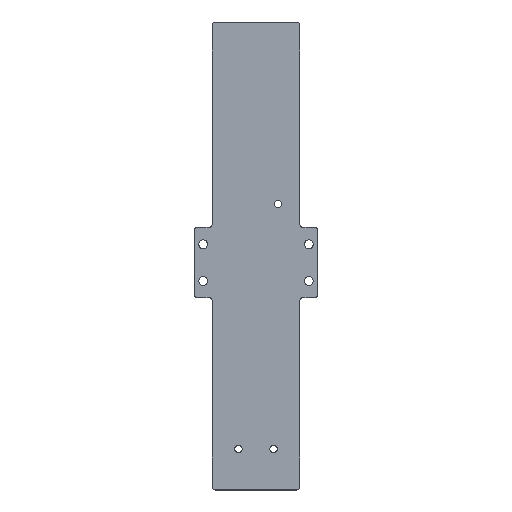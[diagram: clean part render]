
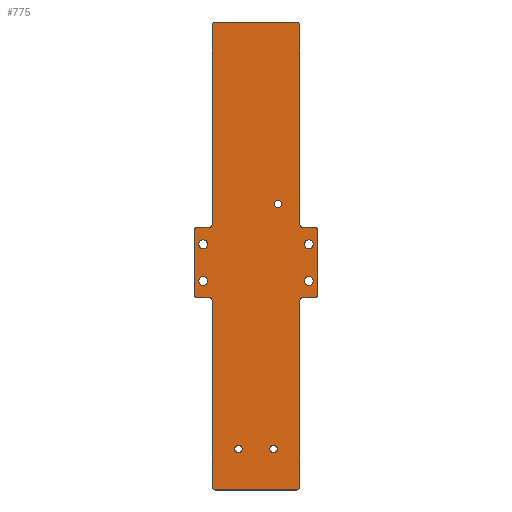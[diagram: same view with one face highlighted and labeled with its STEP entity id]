
A CAD part, top view. The second image highlights one B-rep face of the part: STEP entity #775.
In plain terms, the highlighted planar face has unit normal (0, 0, 1).
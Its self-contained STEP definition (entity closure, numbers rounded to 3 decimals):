
#19=FACE_BOUND('',#94,.T.);
#20=FACE_BOUND('',#95,.T.);
#21=FACE_BOUND('',#96,.T.);
#22=FACE_BOUND('',#97,.T.);
#23=FACE_BOUND('',#98,.T.);
#24=FACE_BOUND('',#99,.T.);
#25=FACE_BOUND('',#100,.T.);
#32=PLANE('',#834);
#50=FACE_OUTER_BOUND('',#93,.T.);
#93=EDGE_LOOP('',(#524,#525,#526,#527,#528,#529,#530,#531,#532,#533,#534,
#535,#536,#537,#538,#539,#540,#541,#542,#543,#544,#545,#546,#547));
#94=EDGE_LOOP('',(#548));
#95=EDGE_LOOP('',(#549));
#96=EDGE_LOOP('',(#550));
#97=EDGE_LOOP('',(#551));
#98=EDGE_LOOP('',(#552));
#99=EDGE_LOOP('',(#553));
#100=EDGE_LOOP('',(#554));
#150=LINE('',#1190,#216);
#151=LINE('',#1194,#217);
#152=LINE('',#1198,#218);
#153=LINE('',#1202,#219);
#154=LINE('',#1206,#220);
#155=LINE('',#1210,#221);
#156=LINE('',#1214,#222);
#157=LINE('',#1218,#223);
#158=LINE('',#1222,#224);
#159=LINE('',#1226,#225);
#160=LINE('',#1230,#226);
#161=LINE('',#1233,#227);
#216=VECTOR('',#936,10.);
#217=VECTOR('',#939,10.);
#218=VECTOR('',#942,10.);
#219=VECTOR('',#945,10.);
#220=VECTOR('',#948,10.);
#221=VECTOR('',#951,10.);
#222=VECTOR('',#954,10.);
#223=VECTOR('',#957,10.);
#224=VECTOR('',#960,10.);
#225=VECTOR('',#963,10.);
#226=VECTOR('',#966,10.);
#227=VECTOR('',#969,10.);
#281=CIRCLE('',#833,1.);
#282=CIRCLE('',#835,1.);
#283=CIRCLE('',#836,1.);
#284=CIRCLE('',#837,1.);
#285=CIRCLE('',#838,1.);
#286=CIRCLE('',#839,1.);
#287=CIRCLE('',#840,1.);
#288=CIRCLE('',#841,1.);
#289=CIRCLE('',#842,1.);
#290=CIRCLE('',#843,1.);
#291=CIRCLE('',#844,1.);
#292=CIRCLE('',#845,1.);
#293=CIRCLE('',#846,1.265);
#294=CIRCLE('',#847,1.5);
#295=CIRCLE('',#848,1.5);
#296=CIRCLE('',#849,1.265);
#297=CIRCLE('',#850,1.265);
#298=CIRCLE('',#851,1.5);
#299=CIRCLE('',#852,1.5);
#332=VERTEX_POINT('',#1183);
#333=VERTEX_POINT('',#1185);
#334=VERTEX_POINT('',#1189);
#335=VERTEX_POINT('',#1191);
#336=VERTEX_POINT('',#1193);
#337=VERTEX_POINT('',#1195);
#338=VERTEX_POINT('',#1197);
#339=VERTEX_POINT('',#1199);
#340=VERTEX_POINT('',#1201);
#341=VERTEX_POINT('',#1203);
#342=VERTEX_POINT('',#1205);
#343=VERTEX_POINT('',#1207);
#344=VERTEX_POINT('',#1209);
#345=VERTEX_POINT('',#1211);
#346=VERTEX_POINT('',#1213);
#347=VERTEX_POINT('',#1215);
#348=VERTEX_POINT('',#1217);
#349=VERTEX_POINT('',#1219);
#350=VERTEX_POINT('',#1221);
#351=VERTEX_POINT('',#1223);
#352=VERTEX_POINT('',#1225);
#353=VERTEX_POINT('',#1227);
#354=VERTEX_POINT('',#1229);
#355=VERTEX_POINT('',#1231);
#356=VERTEX_POINT('',#1234);
#357=VERTEX_POINT('',#1236);
#358=VERTEX_POINT('',#1238);
#359=VERTEX_POINT('',#1240);
#360=VERTEX_POINT('',#1242);
#361=VERTEX_POINT('',#1244);
#362=VERTEX_POINT('',#1246);
#406=EDGE_CURVE('',#332,#333,#281,.T.);
#408=EDGE_CURVE('',#332,#334,#150,.F.);
#409=EDGE_CURVE('',#335,#334,#282,.T.);
#410=EDGE_CURVE('',#335,#336,#151,.F.);
#411=EDGE_CURVE('',#337,#336,#283,.T.);
#412=EDGE_CURVE('',#337,#338,#152,.T.);
#413=EDGE_CURVE('',#339,#338,#284,.T.);
#414=EDGE_CURVE('',#339,#340,#153,.F.);
#415=EDGE_CURVE('',#341,#340,#285,.T.);
#416=EDGE_CURVE('',#341,#342,#154,.F.);
#417=EDGE_CURVE('',#343,#342,#286,.T.);
#418=EDGE_CURVE('',#343,#344,#155,.T.);
#419=EDGE_CURVE('',#345,#344,#287,.T.);
#420=EDGE_CURVE('',#345,#346,#156,.F.);
#421=EDGE_CURVE('',#347,#346,#288,.T.);
#422=EDGE_CURVE('',#347,#348,#157,.F.);
#423=EDGE_CURVE('',#349,#348,#289,.T.);
#424=EDGE_CURVE('',#349,#350,#158,.T.);
#425=EDGE_CURVE('',#351,#350,#290,.T.);
#426=EDGE_CURVE('',#351,#352,#159,.F.);
#427=EDGE_CURVE('',#353,#352,#291,.T.);
#428=EDGE_CURVE('',#353,#354,#160,.F.);
#429=EDGE_CURVE('',#355,#354,#292,.T.);
#430=EDGE_CURVE('',#355,#333,#161,.F.);
#431=EDGE_CURVE('',#356,#356,#293,.T.);
#432=EDGE_CURVE('',#357,#357,#294,.T.);
#433=EDGE_CURVE('',#358,#358,#295,.T.);
#434=EDGE_CURVE('',#359,#359,#296,.T.);
#435=EDGE_CURVE('',#360,#360,#297,.T.);
#436=EDGE_CURVE('',#361,#361,#298,.T.);
#437=EDGE_CURVE('',#362,#362,#299,.T.);
#524=ORIENTED_EDGE('',*,*,#406,.F.);
#525=ORIENTED_EDGE('',*,*,#408,.T.);
#526=ORIENTED_EDGE('',*,*,#409,.F.);
#527=ORIENTED_EDGE('',*,*,#410,.T.);
#528=ORIENTED_EDGE('',*,*,#411,.F.);
#529=ORIENTED_EDGE('',*,*,#412,.T.);
#530=ORIENTED_EDGE('',*,*,#413,.F.);
#531=ORIENTED_EDGE('',*,*,#414,.T.);
#532=ORIENTED_EDGE('',*,*,#415,.F.);
#533=ORIENTED_EDGE('',*,*,#416,.T.);
#534=ORIENTED_EDGE('',*,*,#417,.F.);
#535=ORIENTED_EDGE('',*,*,#418,.T.);
#536=ORIENTED_EDGE('',*,*,#419,.F.);
#537=ORIENTED_EDGE('',*,*,#420,.T.);
#538=ORIENTED_EDGE('',*,*,#421,.F.);
#539=ORIENTED_EDGE('',*,*,#422,.T.);
#540=ORIENTED_EDGE('',*,*,#423,.F.);
#541=ORIENTED_EDGE('',*,*,#424,.T.);
#542=ORIENTED_EDGE('',*,*,#425,.F.);
#543=ORIENTED_EDGE('',*,*,#426,.T.);
#544=ORIENTED_EDGE('',*,*,#427,.F.);
#545=ORIENTED_EDGE('',*,*,#428,.T.);
#546=ORIENTED_EDGE('',*,*,#429,.F.);
#547=ORIENTED_EDGE('',*,*,#430,.T.);
#548=ORIENTED_EDGE('',*,*,#431,.T.);
#549=ORIENTED_EDGE('',*,*,#432,.T.);
#550=ORIENTED_EDGE('',*,*,#433,.T.);
#551=ORIENTED_EDGE('',*,*,#434,.T.);
#552=ORIENTED_EDGE('',*,*,#435,.T.);
#553=ORIENTED_EDGE('',*,*,#436,.T.);
#554=ORIENTED_EDGE('',*,*,#437,.T.);
#775=ADVANCED_FACE('',(#50,#19,#20,#21,#22,#23,#24,#25),#32,.T.);
#833=AXIS2_PLACEMENT_3D('',#1186,#931,#932);
#834=AXIS2_PLACEMENT_3D('',#1188,#934,#935);
#835=AXIS2_PLACEMENT_3D('',#1192,#937,#938);
#836=AXIS2_PLACEMENT_3D('',#1196,#940,#941);
#837=AXIS2_PLACEMENT_3D('',#1200,#943,#944);
#838=AXIS2_PLACEMENT_3D('',#1204,#946,#947);
#839=AXIS2_PLACEMENT_3D('',#1208,#949,#950);
#840=AXIS2_PLACEMENT_3D('',#1212,#952,#953);
#841=AXIS2_PLACEMENT_3D('',#1216,#955,#956);
#842=AXIS2_PLACEMENT_3D('',#1220,#958,#959);
#843=AXIS2_PLACEMENT_3D('',#1224,#961,#962);
#844=AXIS2_PLACEMENT_3D('',#1228,#964,#965);
#845=AXIS2_PLACEMENT_3D('',#1232,#967,#968);
#846=AXIS2_PLACEMENT_3D('',#1235,#970,#971);
#847=AXIS2_PLACEMENT_3D('',#1237,#972,#973);
#848=AXIS2_PLACEMENT_3D('',#1239,#974,#975);
#849=AXIS2_PLACEMENT_3D('',#1241,#976,#977);
#850=AXIS2_PLACEMENT_3D('',#1243,#978,#979);
#851=AXIS2_PLACEMENT_3D('',#1245,#980,#981);
#852=AXIS2_PLACEMENT_3D('',#1247,#982,#983);
#931=DIRECTION('center_axis',(0.,0.,-1.));
#932=DIRECTION('ref_axis',(-0.707,0.707,0.));
#934=DIRECTION('center_axis',(0.,0.,1.));
#935=DIRECTION('ref_axis',(1.,0.,0.));
#936=DIRECTION('',(0.,1.,0.));
#937=DIRECTION('center_axis',(0.,0.,1.));
#938=DIRECTION('ref_axis',(0.707,-0.707,0.));
#939=DIRECTION('',(1.,0.,0.));
#940=DIRECTION('center_axis',(0.,0.,-1.));
#941=DIRECTION('ref_axis',(-0.707,0.707,0.));
#942=DIRECTION('',(0.,-1.,0.));
#943=DIRECTION('center_axis',(0.,0.,-1.));
#944=DIRECTION('ref_axis',(-0.707,-0.707,0.));
#945=DIRECTION('',(-1.,0.,0.));
#946=DIRECTION('center_axis',(0.,0.,1.));
#947=DIRECTION('ref_axis',(0.707,0.707,0.));
#948=DIRECTION('',(0.,1.,0.));
#949=DIRECTION('center_axis',(0.,0.,-1.));
#950=DIRECTION('ref_axis',(-0.707,-0.707,0.));
#951=DIRECTION('',(1.,0.,0.));
#952=DIRECTION('center_axis',(0.,0.,-1.));
#953=DIRECTION('ref_axis',(0.707,-0.707,0.));
#954=DIRECTION('',(0.,-1.,0.));
#955=DIRECTION('center_axis',(0.,0.,1.));
#956=DIRECTION('ref_axis',(-0.707,0.707,0.));
#957=DIRECTION('',(-1.,0.,0.));
#958=DIRECTION('center_axis',(0.,0.,-1.));
#959=DIRECTION('ref_axis',(0.707,-0.707,0.));
#960=DIRECTION('',(0.,1.,0.));
#961=DIRECTION('center_axis',(0.,0.,-1.));
#962=DIRECTION('ref_axis',(0.707,0.707,0.));
#963=DIRECTION('',(1.,0.,0.));
#964=DIRECTION('center_axis',(0.,0.,1.));
#965=DIRECTION('ref_axis',(-0.707,-0.707,0.));
#966=DIRECTION('',(0.,-1.,0.));
#967=DIRECTION('center_axis',(0.,0.,-1.));
#968=DIRECTION('ref_axis',(0.707,0.707,0.));
#969=DIRECTION('',(1.,0.,0.));
#970=DIRECTION('center_axis',(0.,0.,-1.));
#971=DIRECTION('ref_axis',(-1.,0.,0.));
#972=DIRECTION('center_axis',(0.,0.,-1.));
#973=DIRECTION('ref_axis',(-1.,0.,0.));
#974=DIRECTION('center_axis',(0.,0.,-1.));
#975=DIRECTION('ref_axis',(-1.,0.,0.));
#976=DIRECTION('center_axis',(0.,0.,-1.));
#977=DIRECTION('ref_axis',(-1.,0.,0.));
#978=DIRECTION('center_axis',(0.,0.,-1.));
#979=DIRECTION('ref_axis',(-1.,0.,0.));
#980=DIRECTION('center_axis',(0.,0.,-1.));
#981=DIRECTION('ref_axis',(-1.,0.,0.));
#982=DIRECTION('center_axis',(0.,0.,-1.));
#983=DIRECTION('ref_axis',(-1.,0.,0.));
#1183=CARTESIAN_POINT('',(-14.95,-171.5,13.));
#1185=CARTESIAN_POINT('',(-13.95,-170.5,13.));
#1186=CARTESIAN_POINT('Origin',(-13.95,-171.5,13.));
#1188=CARTESIAN_POINT('Origin',(0.,-250.,13.));
#1189=CARTESIAN_POINT('',(-14.95,-239.5,13.));
#1190=CARTESIAN_POINT('',(-14.95,-257.5,13.));
#1191=CARTESIAN_POINT('',(-15.95,-240.5,13.));
#1192=CARTESIAN_POINT('Origin',(-15.95,-239.5,13.));
#1193=CARTESIAN_POINT('',(-20.,-240.5,13.));
#1194=CARTESIAN_POINT('',(-7.5,-240.5,13.));
#1195=CARTESIAN_POINT('',(-21.,-241.5,13.));
#1196=CARTESIAN_POINT('Origin',(-20.,-241.5,13.));
#1197=CARTESIAN_POINT('',(-21.,-263.5,13.));
#1198=CARTESIAN_POINT('',(-21.,-265.,13.));
#1199=CARTESIAN_POINT('',(-20.,-264.5,13.));
#1200=CARTESIAN_POINT('Origin',(-20.,-263.5,13.));
#1201=CARTESIAN_POINT('',(-15.95,-264.5,13.));
#1202=CARTESIAN_POINT('',(-10.5,-264.5,13.));
#1203=CARTESIAN_POINT('',(-14.95,-265.5,13.));
#1204=CARTESIAN_POINT('Origin',(-15.95,-265.5,13.));
#1205=CARTESIAN_POINT('',(-14.95,-329.,13.));
#1206=CARTESIAN_POINT('',(-14.95,-257.5,13.));
#1207=CARTESIAN_POINT('',(-13.95,-330.,13.));
#1208=CARTESIAN_POINT('Origin',(-13.95,-329.,13.));
#1209=CARTESIAN_POINT('',(13.95,-330.,13.));
#1210=CARTESIAN_POINT('',(-15.,-330.,13.));
#1211=CARTESIAN_POINT('',(14.95,-329.,13.));
#1212=CARTESIAN_POINT('Origin',(13.95,-329.,13.));
#1213=CARTESIAN_POINT('',(14.95,-265.5,13.));
#1214=CARTESIAN_POINT('',(14.95,-290.,13.));
#1215=CARTESIAN_POINT('',(15.95,-264.5,13.));
#1216=CARTESIAN_POINT('Origin',(15.95,-265.5,13.));
#1217=CARTESIAN_POINT('',(20.,-264.5,13.));
#1218=CARTESIAN_POINT('',(7.5,-264.5,13.));
#1219=CARTESIAN_POINT('',(21.,-263.5,13.));
#1220=CARTESIAN_POINT('Origin',(20.,-263.5,13.));
#1221=CARTESIAN_POINT('',(21.,-241.5,13.));
#1222=CARTESIAN_POINT('',(21.,-240.,13.));
#1223=CARTESIAN_POINT('',(20.,-240.5,13.));
#1224=CARTESIAN_POINT('Origin',(20.,-241.5,13.));
#1225=CARTESIAN_POINT('',(15.95,-240.5,13.));
#1226=CARTESIAN_POINT('',(10.5,-240.5,13.));
#1227=CARTESIAN_POINT('',(14.95,-239.5,13.));
#1228=CARTESIAN_POINT('Origin',(15.95,-239.5,13.));
#1229=CARTESIAN_POINT('',(14.95,-171.5,13.));
#1230=CARTESIAN_POINT('',(14.95,-290.,13.));
#1231=CARTESIAN_POINT('',(13.95,-170.5,13.));
#1232=CARTESIAN_POINT('Origin',(13.95,-171.5,13.));
#1233=CARTESIAN_POINT('',(7.5,-170.5,13.));
#1234=CARTESIAN_POINT('',(8.764,-232.5,13.));
#1235=CARTESIAN_POINT('Origin',(7.5,-232.5,13.));
#1236=CARTESIAN_POINT('',(-16.5,-246.25,13.));
#1237=CARTESIAN_POINT('Origin',(-18.,-246.25,13.));
#1238=CARTESIAN_POINT('',(-16.5,-258.75,13.));
#1239=CARTESIAN_POINT('Origin',(-18.,-258.75,13.));
#1240=CARTESIAN_POINT('',(-4.735,-316.,13.));
#1241=CARTESIAN_POINT('Origin',(-6.,-316.,13.));
#1242=CARTESIAN_POINT('',(7.264,-316.,13.));
#1243=CARTESIAN_POINT('Origin',(6.,-316.,13.));
#1244=CARTESIAN_POINT('',(19.5,-258.75,13.));
#1245=CARTESIAN_POINT('Origin',(18.,-258.75,13.));
#1246=CARTESIAN_POINT('',(19.5,-246.25,13.));
#1247=CARTESIAN_POINT('Origin',(18.,-246.25,13.));
